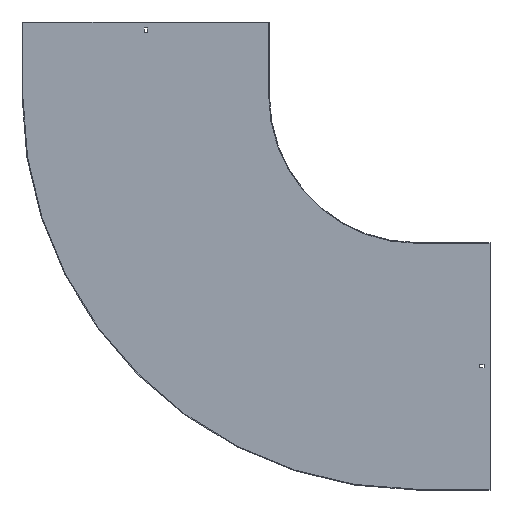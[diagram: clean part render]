
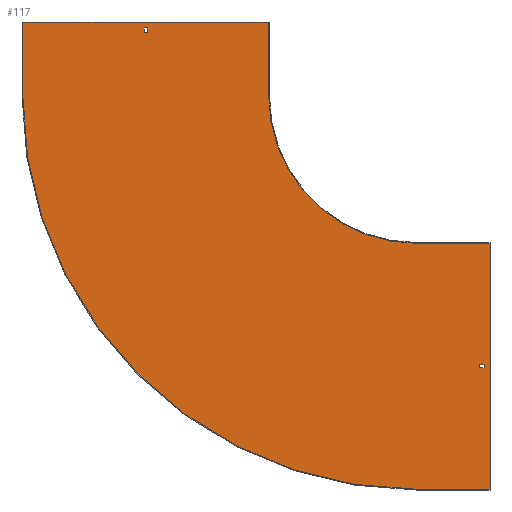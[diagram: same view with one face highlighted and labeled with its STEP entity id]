
A CAD part, front view. The second image highlights one B-rep face of the part: STEP entity #117.
In plain terms, the highlighted planar face has unit normal (0, -1, 0).
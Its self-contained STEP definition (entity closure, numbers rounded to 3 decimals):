
#5 = LINE ( 'NONE', #768, #51 ) ;
#9 = EDGE_CURVE ( 'NONE', #77, #472, #499, .T. ) ;
#17 = VECTOR ( 'NONE', #597, 1000. ) ;
#21 = DIRECTION ( 'NONE',  ( 1., 0., 0. ) ) ;
#29 = ORIENTED_EDGE ( 'NONE', *, *, #38, .F. ) ;
#30 = VERTEX_POINT ( 'NONE', #348 ) ;
#35 = VECTOR ( 'NONE', #151, 1000. ) ;
#38 = EDGE_CURVE ( 'NONE', #472, #311, #559, .T. ) ;
#39 = CARTESIAN_POINT ( 'NONE',  ( -546.75, -1.5, 129. ) ) ;
#40 = VERTEX_POINT ( 'NONE', #92 ) ;
#47 = VERTEX_POINT ( 'NONE', #298 ) ;
#51 = VECTOR ( 'NONE', #504, 1000. ) ;
#56 = CARTESIAN_POINT ( 'NONE',  ( 129., -1.5, -553.25 ) ) ;
#61 = LINE ( 'NONE', #332, #17 ) ;
#62 = DIRECTION ( 'NONE',  ( -1., 0., 0. ) ) ;
#69 = ORIENTED_EDGE ( 'NONE', *, *, #659, .F. ) ;
#70 = CARTESIAN_POINT ( 'NONE',  ( 150., -1.5, -300. ) ) ;
#77 = VERTEX_POINT ( 'NONE', #97 ) ;
#92 = CARTESIAN_POINT ( 'NONE',  ( -553.25, -1.5, 129. ) ) ;
#97 = CARTESIAN_POINT ( 'NONE',  ( -800., -1.5, 0. ) ) ;
#100 = LINE ( 'NONE', #507, #579 ) ;
#117 = ADVANCED_FACE ( 'NONE', ( #452, #738, #863 ), #787, .T. ) ;
#120 = CARTESIAN_POINT ( 'NONE',  ( -546.75, -1.5, 0. ) ) ;
#131 = CARTESIAN_POINT ( 'NONE',  ( 138., -1.5, 0. ) ) ;
#137 = EDGE_CURVE ( 'NONE', #40, #762, #207, .T. ) ;
#142 = ORIENTED_EDGE ( 'NONE', *, *, #443, .F. ) ;
#150 = DIRECTION ( 'NONE',  ( 0., 0., -1. ) ) ;
#151 = DIRECTION ( 'NONE',  ( 1., 0., 0. ) ) ;
#157 = VECTOR ( 'NONE', #492, 1000. ) ;
#163 = DIRECTION ( 'NONE',  ( 0., 0., 1. ) ) ;
#167 = EDGE_CURVE ( 'NONE', #247, #210, #61, .T. ) ;
#168 = VECTOR ( 'NONE', #455, 1000. ) ;
#172 = ORIENTED_EDGE ( 'NONE', *, *, #9, .F. ) ;
#182 = VERTEX_POINT ( 'NONE', #214 ) ;
#183 = VECTOR ( 'NONE', #62, 1000. ) ;
#189 = CARTESIAN_POINT ( 'NONE',  ( 0., -1.5, 0. ) ) ;
#203 = EDGE_LOOP ( 'NONE', ( #29, #172, #379, #142, #805, #437, #657, #427 ) ) ;
#207 = LINE ( 'NONE', #526, #168 ) ;
#208 = LINE ( 'NONE', #739, #774 ) ;
#210 = VERTEX_POINT ( 'NONE', #70 ) ;
#214 = CARTESIAN_POINT ( 'NONE',  ( 138., -1.5, -553.25 ) ) ;
#218 = VECTOR ( 'NONE', #314, 1000. ) ;
#235 = EDGE_LOOP ( 'NONE', ( #488, #600, #322, #550 ) ) ;
#247 = VERTEX_POINT ( 'NONE', #808 ) ;
#255 = DIRECTION ( 'NONE',  ( 0., 0., -1. ) ) ;
#262 = AXIS2_PLACEMENT_3D ( 'NONE', #694, #830, #685 ) ;
#281 = VERTEX_POINT ( 'NONE', #402 ) ;
#282 = CARTESIAN_POINT ( 'NONE',  ( 0., -1.5, -546.75 ) ) ;
#285 = VECTOR ( 'NONE', #654, 1000. ) ;
#288 = CARTESIAN_POINT ( 'NONE',  ( 138., -1.5, -546.75 ) ) ;
#298 = CARTESIAN_POINT ( 'NONE',  ( 0., -1.5, -800. ) ) ;
#300 = VERTEX_POINT ( 'NONE', #796 ) ;
#303 = AXIS2_PLACEMENT_3D ( 'NONE', #751, #571, #626 ) ;
#311 = VERTEX_POINT ( 'NONE', #608 ) ;
#314 = DIRECTION ( 'NONE',  ( 0., 0., -1. ) ) ;
#322 = ORIENTED_EDGE ( 'NONE', *, *, #581, .T. ) ;
#330 = EDGE_CURVE ( 'NONE', #210, #30, #5, .T. ) ;
#332 = CARTESIAN_POINT ( 'NONE',  ( 0., -1.5, -300. ) ) ;
#344 = ORIENTED_EDGE ( 'NONE', *, *, #816, .F. ) ;
#348 = CARTESIAN_POINT ( 'NONE',  ( 150., -1.5, -800. ) ) ;
#350 = EDGE_CURVE ( 'NONE', #762, #281, #411, .T. ) ;
#354 = CIRCLE ( 'NONE', #303, 800. ) ;
#365 = VECTOR ( 'NONE', #150, 1000. ) ;
#379 = ORIENTED_EDGE ( 'NONE', *, *, #386, .F. ) ;
#386 = EDGE_CURVE ( 'NONE', #47, #77, #354, .T. ) ;
#389 = LINE ( 'NONE', #660, #183 ) ;
#398 = AXIS2_PLACEMENT_3D ( 'NONE', #189, #536, #255 ) ;
#402 = CARTESIAN_POINT ( 'NONE',  ( -546.75, -1.5, 138. ) ) ;
#411 = LINE ( 'NONE', #689, #35 ) ;
#412 = CARTESIAN_POINT ( 'NONE',  ( -553.25, -1.5, 138. ) ) ;
#419 = EDGE_CURVE ( 'NONE', #300, #247, #537, .T. ) ;
#425 = CARTESIAN_POINT ( 'NONE',  ( -801.5, -1.5, 150. ) ) ;
#427 = ORIENTED_EDGE ( 'NONE', *, *, #603, .F. ) ;
#432 = ORIENTED_EDGE ( 'NONE', *, *, #462, .F. ) ;
#437 = ORIENTED_EDGE ( 'NONE', *, *, #167, .F. ) ;
#443 = EDGE_CURVE ( 'NONE', #30, #47, #757, .T. ) ;
#452 = FACE_BOUND ( 'NONE', #611, .T. ) ;
#455 = DIRECTION ( 'NONE',  ( 0., 0., 1. ) ) ;
#462 = EDGE_CURVE ( 'NONE', #476, #576, #496, .T. ) ;
#472 = VERTEX_POINT ( 'NONE', #818 ) ;
#476 = VERTEX_POINT ( 'NONE', #288 ) ;
#478 = ORIENTED_EDGE ( 'NONE', *, *, #803, .F. ) ;
#484 = EDGE_CURVE ( 'NONE', #281, #520, #502, .T. ) ;
#488 = ORIENTED_EDGE ( 'NONE', *, *, #350, .T. ) ;
#492 = DIRECTION ( 'NONE',  ( -1., 0., 0. ) ) ;
#494 = LINE ( 'NONE', #672, #365 ) ;
#496 = LINE ( 'NONE', #282, #620 ) ;
#499 = LINE ( 'NONE', #766, #515 ) ;
#502 = LINE ( 'NONE', #120, #218 ) ;
#504 = DIRECTION ( 'NONE',  ( 0., 0., -1. ) ) ;
#507 = CARTESIAN_POINT ( 'NONE',  ( 0., -1.5, -553.25 ) ) ;
#515 = VECTOR ( 'NONE', #163, 1000. ) ;
#520 = VERTEX_POINT ( 'NONE', #39 ) ;
#525 = DIRECTION ( 'NONE',  ( 1., 0., 0. ) ) ;
#526 = CARTESIAN_POINT ( 'NONE',  ( -553.25, -1.5, 0. ) ) ;
#532 = LINE ( 'NONE', #131, #285 ) ;
#536 = DIRECTION ( 'NONE',  ( 0., -1., 0. ) ) ;
#537 = CIRCLE ( 'NONE', #262, 300. ) ;
#550 = ORIENTED_EDGE ( 'NONE', *, *, #137, .T. ) ;
#559 = LINE ( 'NONE', #425, #653 ) ;
#564 = DIRECTION ( 'NONE',  ( -1., 0., 0. ) ) ;
#571 = DIRECTION ( 'NONE',  ( 0., 1., 0. ) ) ;
#576 = VERTEX_POINT ( 'NONE', #710 ) ;
#579 = VECTOR ( 'NONE', #525, 1000. ) ;
#581 = EDGE_CURVE ( 'NONE', #520, #40, #389, .T. ) ;
#597 = DIRECTION ( 'NONE',  ( 1., 0., 0. ) ) ;
#600 = ORIENTED_EDGE ( 'NONE', *, *, #484, .T. ) ;
#603 = EDGE_CURVE ( 'NONE', #311, #300, #494, .T. ) ;
#608 = CARTESIAN_POINT ( 'NONE',  ( -300., -1.5, 150. ) ) ;
#611 = EDGE_LOOP ( 'NONE', ( #432, #478, #69, #344 ) ) ;
#620 = VECTOR ( 'NONE', #564, 1000. ) ;
#626 = DIRECTION ( 'NONE',  ( 0., 0., -1. ) ) ;
#653 = VECTOR ( 'NONE', #21, 1000. ) ;
#654 = DIRECTION ( 'NONE',  ( 0., 0., 1. ) ) ;
#657 = ORIENTED_EDGE ( 'NONE', *, *, #419, .F. ) ;
#659 = EDGE_CURVE ( 'NONE', #815, #182, #100, .T. ) ;
#660 = CARTESIAN_POINT ( 'NONE',  ( 0., -1.5, 129. ) ) ;
#672 = CARTESIAN_POINT ( 'NONE',  ( -300., -1.5, 150. ) ) ;
#685 = DIRECTION ( 'NONE',  ( 0., 0., -1. ) ) ;
#689 = CARTESIAN_POINT ( 'NONE',  ( 0., -1.5, 138. ) ) ;
#694 = CARTESIAN_POINT ( 'NONE',  ( 0., -1.5, 0. ) ) ;
#710 = CARTESIAN_POINT ( 'NONE',  ( 129., -1.5, -546.75 ) ) ;
#738 = FACE_OUTER_BOUND ( 'NONE', #203, .T. ) ;
#739 = CARTESIAN_POINT ( 'NONE',  ( 129., -1.5, 0. ) ) ;
#751 = CARTESIAN_POINT ( 'NONE',  ( 0., -1.5, 0. ) ) ;
#757 = LINE ( 'NONE', #839, #157 ) ;
#762 = VERTEX_POINT ( 'NONE', #412 ) ;
#766 = CARTESIAN_POINT ( 'NONE',  ( -800., -1.5, 0. ) ) ;
#768 = CARTESIAN_POINT ( 'NONE',  ( 150., -1.5, -298.5 ) ) ;
#774 = VECTOR ( 'NONE', #788, 1000. ) ;
#787 = PLANE ( 'NONE',  #398 ) ;
#788 = DIRECTION ( 'NONE',  ( 0., 0., -1. ) ) ;
#796 = CARTESIAN_POINT ( 'NONE',  ( -300., -1.5, 0. ) ) ;
#803 = EDGE_CURVE ( 'NONE', #182, #476, #532, .T. ) ;
#805 = ORIENTED_EDGE ( 'NONE', *, *, #330, .F. ) ;
#808 = CARTESIAN_POINT ( 'NONE',  ( 0., -1.5, -300. ) ) ;
#815 = VERTEX_POINT ( 'NONE', #56 ) ;
#816 = EDGE_CURVE ( 'NONE', #576, #815, #208, .T. ) ;
#818 = CARTESIAN_POINT ( 'NONE',  ( -800., -1.5, 150. ) ) ;
#830 = DIRECTION ( 'NONE',  ( 0., -1., 0. ) ) ;
#839 = CARTESIAN_POINT ( 'NONE',  ( 150., -1.5, -800. ) ) ;
#863 = FACE_BOUND ( 'NONE', #235, .T. ) ;
